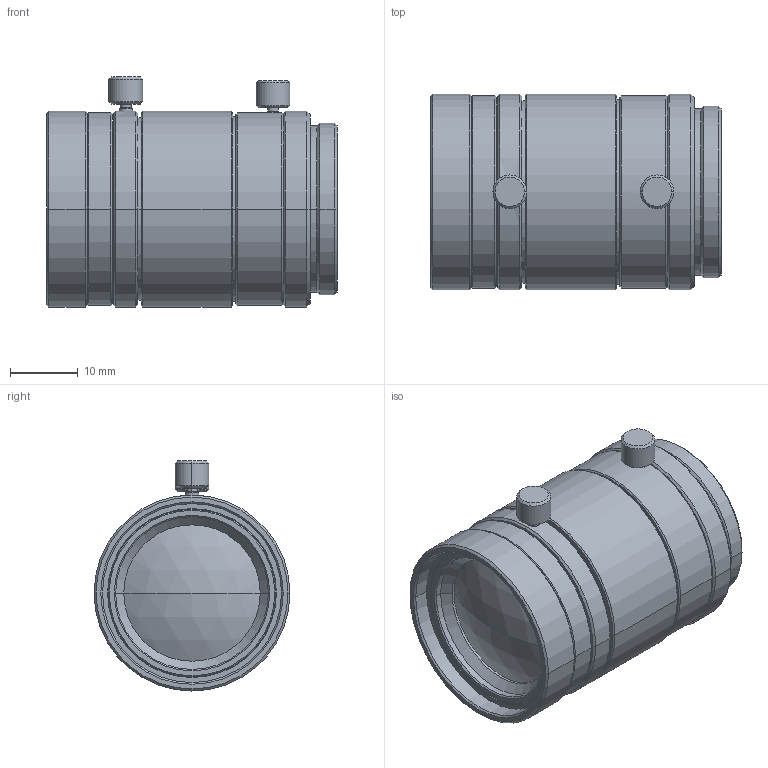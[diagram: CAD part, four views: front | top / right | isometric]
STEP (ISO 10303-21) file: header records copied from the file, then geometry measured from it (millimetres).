
FILE_DESCRIPTION (( 'STEP AP203' ), '1' );
FILE_NAME ('VS-5026VM.STEP', '2016-03-30T00:01:52', ( '' ), ( '' ), 'SwSTEP 2.0', 'SolidWorks 2016', '' );
FILE_SCHEMA (( 'CONFIG_CONTROL_DESIGN' ));
Length unit declared in the file: millimetre
Products named in the file (1): VS-5026VM
Bounding box: 43 x 29 x 34.05 mm (x, y, z)
Volume: 22743.7 mm3; surface area: 7218.5 mm2
Topology: 1 solids, 1 shells, 139 faces, 276 edges, 160 vertices
Faces by surface type: cone 66, cylinder 48, plane 21, sphere 4
Entity records: 3705 total; most frequent: DIRECTION 710, CARTESIAN_POINT 640, ORIENTED_EDGE 552, AXIS2_PLACEMENT_3D 298, EDGE_CURVE 276, EDGE_LOOP 160, VERTEX_POINT 160, CIRCLE 158
